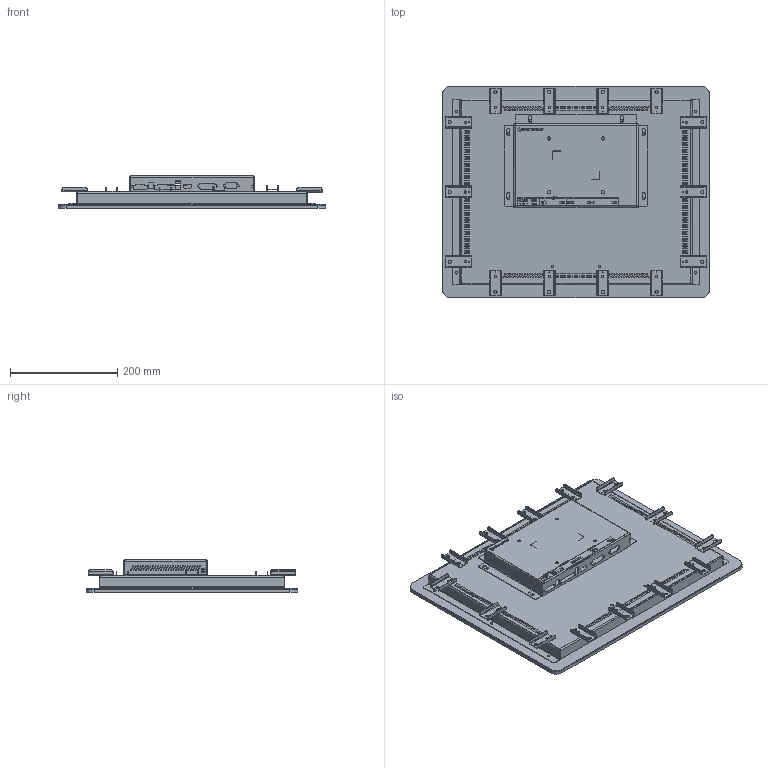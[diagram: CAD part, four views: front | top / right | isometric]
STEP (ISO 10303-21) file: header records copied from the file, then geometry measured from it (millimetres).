
FILE_DESCRIPTION(('STEP AP242'), '1');
FILE_NAME('栖闉罻_Gla19Touch_ADBoard', '', ('UNSPECIFIED'), ('UNSPECIFIED'), 'C3D Converter', 'C3D Toolkit', '');
FILE_SCHEMA(('AP242_MANAGED_MODEL_BASED_3D_ENGINEERING_MIM_LF { 1 0 10303 442 1 1 4 }'));
Length unit declared in the file: millimetre
Products named in the file (1): -step
Bounding box: 498 x 394 x 60.49 mm (x, y, z)
Volume: 1691001.1 mm3; surface area: 1052338.4 mm2
Topology: 5 solids, 5 shells, 3666 faces, 10122 edges, 6628 vertices
Faces by surface type: plane 1842, cylinder 898, extrusion 894, bspline 32
Full cylindrical faces by diameter (mm): 1.6 x14, 2 x4, 2.5 x13, 4 x18, 4.2 x23, 4.22 x1, 4.35 x13, 4.5 x6, 5 x4, 6 x14, 6.1 x4
Entity records: 149554 total; most frequent: CARTESIAN_POINT 27865, ORIENTED_EDGE 20016, DIRECTION 16294, EDGE_CURVE 10008, VECTOR 7284, VERTEX_POINT 6628, LINE 6390, EDGE_LOOP 4656
